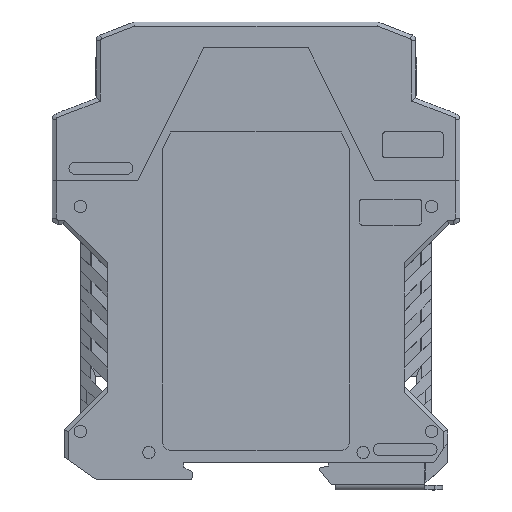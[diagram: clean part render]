
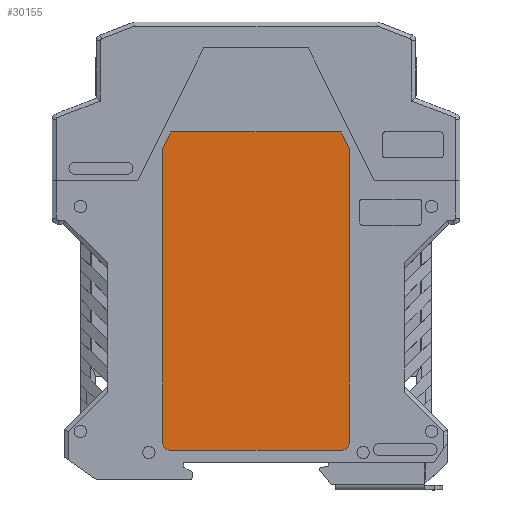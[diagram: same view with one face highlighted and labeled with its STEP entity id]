
A CAD part, top view. The second image highlights one B-rep face of the part: STEP entity #30155.
In plain terms, the highlighted planar face has unit normal (0, 0, 1) as drawn and (0, -1, 0) by its records, which use the part's own axes.
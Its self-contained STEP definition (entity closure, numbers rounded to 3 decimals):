
#30155=ADVANCED_FACE('',(#55348),#55350,.T.);
#55348=FACE_BOUND('',#55349,.T.);
#55349=EDGE_LOOP('',(#72053,#72054,#72055,#72056,#72057,#72058,#72059,#72060));
#55350=PLANE('',#55351);
#55351=AXIS2_PLACEMENT_3D('',#55352,#55353,#55354);
#55352=CARTESIAN_POINT('',(0.,0.2,103.85));
#55353=DIRECTION('',(0.,-1.,0.));
#55354=DIRECTION('',(0.,0.,-1.));
#72053=ORIENTED_EDGE('',*,*,#80476,.T.);
#72054=ORIENTED_EDGE('',*,*,#80477,.F.);
#72055=ORIENTED_EDGE('',*,*,#80478,.T.);
#72056=ORIENTED_EDGE('',*,*,#80479,.F.);
#72057=ORIENTED_EDGE('',*,*,#80475,.T.);
#72058=ORIENTED_EDGE('',*,*,#80472,.F.);
#72059=ORIENTED_EDGE('',*,*,#80480,.T.);
#72060=ORIENTED_EDGE('',*,*,#80481,.F.);
#80472=EDGE_CURVE('',#94301,#94303,#94304,.T.);
#80475=EDGE_CURVE('',#94306,#94303,#94308,.T.);
#80476=EDGE_CURVE('',#94309,#94310,#94311,.T.);
#80477=EDGE_CURVE('',#94312,#94310,#94313,.T.);
#80478=EDGE_CURVE('',#94312,#94314,#94315,.T.);
#80479=EDGE_CURVE('',#94306,#94314,#94316,.T.);
#80480=EDGE_CURVE('',#94301,#94317,#94318,.T.);
#80481=EDGE_CURVE('',#94309,#94317,#94319,.T.);
#94301=VERTEX_POINT('',#132115);
#94303=VERTEX_POINT('',#132119);
#94304=LINE('',#132120,#132121);
#94306=VERTEX_POINT('',#132126);
#94308=CIRCLE('',#132130,2.);
#94309=VERTEX_POINT('',#132134);
#94310=VERTEX_POINT('',#132135);
#94311=LINE('',#132136,#132137);
#94312=VERTEX_POINT('',#132139);
#94313=LINE('',#132140,#132141);
#94314=VERTEX_POINT('',#132143);
#94315=LINE('',#132144,#132145);
#94316=LINE('',#132147,#132148);
#94317=VERTEX_POINT('',#132150);
#94318=CIRCLE('',#132151,2.);
#94319=LINE('',#132155,#132156);
#132115=CARTESIAN_POINT('',(20.65,0.2,3.));
#132119=CARTESIAN_POINT('',(-20.65,0.2,3.));
#132120=CARTESIAN_POINT('',(20.65,0.2,3.));
#132121=VECTOR('',#132122,1.);
#132122=DIRECTION('',(-1.,0.,0.));
#132126=CARTESIAN_POINT('',(-22.65,0.2,5.));
#132130=AXIS2_PLACEMENT_3D('',#132131,#132132,#132133);
#132131=CARTESIAN_POINT('',(-20.65,0.2,5.));
#132132=DIRECTION('',(0.,-1.,0.));
#132133=DIRECTION('',(-1.,0.,0.));
#132134=CARTESIAN_POINT('',(22.65,0.2,76.3));
#132135=CARTESIAN_POINT('',(20.65,0.2,80.3));
#132136=CARTESIAN_POINT('',(22.65,0.2,76.3));
#132137=VECTOR('',#132138,1.);
#132138=DIRECTION('',(-0.447,0.,0.894));
#132139=CARTESIAN_POINT('',(-20.65,0.2,80.3));
#132140=CARTESIAN_POINT('',(-20.65,0.2,80.3));
#132141=VECTOR('',#132142,1.);
#132142=DIRECTION('',(1.,0.,0.));
#132143=CARTESIAN_POINT('',(-22.65,0.2,76.3));
#132144=CARTESIAN_POINT('',(-20.65,0.2,80.3));
#132145=VECTOR('',#132146,1.);
#132146=DIRECTION('',(-0.447,0.,-0.894));
#132147=CARTESIAN_POINT('',(-22.65,0.2,5.));
#132148=VECTOR('',#132149,1.);
#132149=DIRECTION('',(0.,0.,1.));
#132150=CARTESIAN_POINT('',(22.65,0.2,5.));
#132151=AXIS2_PLACEMENT_3D('',#132152,#132153,#132154);
#132152=CARTESIAN_POINT('',(20.65,0.2,5.));
#132153=DIRECTION('',(0.,-1.,0.));
#132154=DIRECTION('',(0.,0.,-1.));
#132155=CARTESIAN_POINT('',(22.65,0.2,76.3));
#132156=VECTOR('',#132157,1.);
#132157=DIRECTION('',(0.,0.,-1.));
